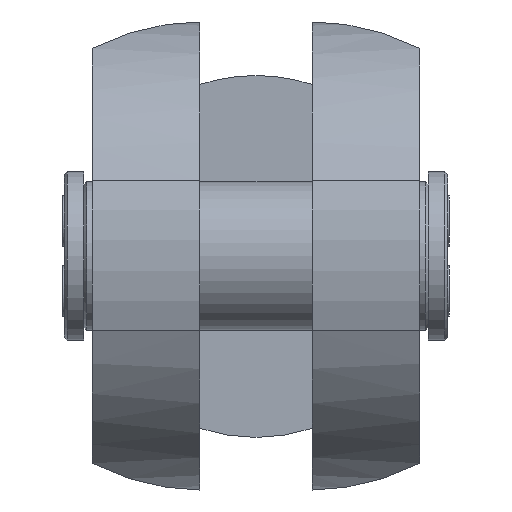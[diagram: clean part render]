
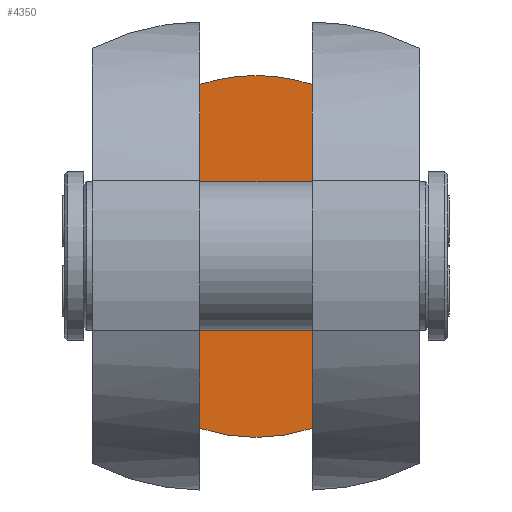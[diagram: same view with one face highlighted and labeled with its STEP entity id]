
A CAD part, top view. The second image highlights one B-rep face of the part: STEP entity #4350.
In plain terms, the highlighted planar face has unit normal (0, 0, 1).
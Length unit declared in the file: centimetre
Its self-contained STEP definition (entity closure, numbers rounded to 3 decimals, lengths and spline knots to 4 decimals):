
#464=LINE('',#7216,#848);
#465=LINE('',#7218,#849);
#848=VECTOR('',#5665,24.4814);
#849=VECTOR('',#5668,24.4814);
#1081=PLANE('',#4669);
#1409=FACE_OUTER_BOUND('',#1736,.T.);
#1736=EDGE_LOOP('',(#3815,#3816,#3817,#3818));
#1802=CIRCLE('',#4523,12.8777);
#1803=CIRCLE('',#4524,12.8777);
#1934=VERTEX_POINT('',#6082);
#1935=VERTEX_POINT('',#6086);
#1940=VERTEX_POINT('',#6126);
#1941=VERTEX_POINT('',#6130);
#2341=EDGE_CURVE('',#1934,#1935,#1802,.T.);
#2347=EDGE_CURVE('',#1940,#1941,#1803,.T.);
#2742=EDGE_CURVE('',#1941,#1934,#464,.T.);
#2743=EDGE_CURVE('',#1940,#1935,#465,.T.);
#3815=ORIENTED_EDGE('',*,*,#2347,.F.);
#3816=ORIENTED_EDGE('',*,*,#2743,.T.);
#3817=ORIENTED_EDGE('',*,*,#2341,.F.);
#3818=ORIENTED_EDGE('',*,*,#2742,.F.);
#4350=ADVANCED_FACE('',(#1409),#1081,.F.);
#4523=AXIS2_PLACEMENT_3D('',#6087,#5039,#5040);
#4524=AXIS2_PLACEMENT_3D('',#6131,#5041,#5042);
#4669=AXIS2_PLACEMENT_3D('',#7217,#5666,#5667);
#5039=DIRECTION('center_axis',(0.,0.,
-1.));
#5040=DIRECTION('ref_axis',(0.,1.,0.));
#5041=DIRECTION('center_axis',(0.,0.,
-1.));
#5042=DIRECTION('ref_axis',(0.,1.,0.));
#5665=DIRECTION('',(0.,-1.,0.));
#5666=DIRECTION('center_axis',(0.,0.,
-1.));
#5667=DIRECTION('ref_axis',(1.,0.,0.));
#5668=DIRECTION('',(0.,-1.,0.));
#6082=CARTESIAN_POINT('',(4.,-12.2407,-20.));
#6086=CARTESIAN_POINT('',(-4.,-12.2407,-20.));
#6087=CARTESIAN_POINT('Origin',(0.,0.,
-20.));
#6126=CARTESIAN_POINT('',(-4.,12.2407,-20.));
#6130=CARTESIAN_POINT('',(4.,12.2407,-20.));
#6131=CARTESIAN_POINT('Origin',(0.,0.,
-20.));
#7216=CARTESIAN_POINT('',(4.,0.,-20.));
#7217=CARTESIAN_POINT('Origin',(-4.,0.,
-20.));
#7218=CARTESIAN_POINT('',(-4.,0.,-20.));
